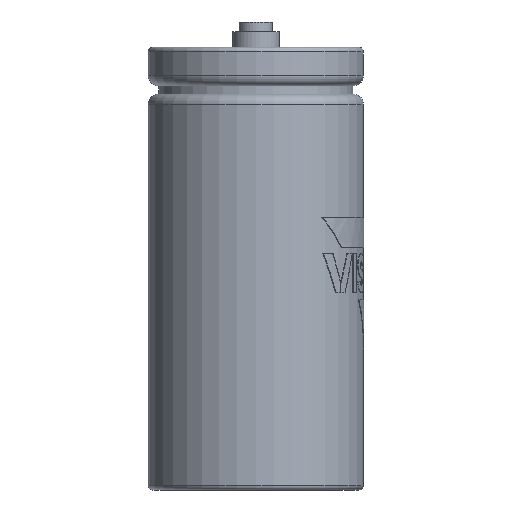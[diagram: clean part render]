
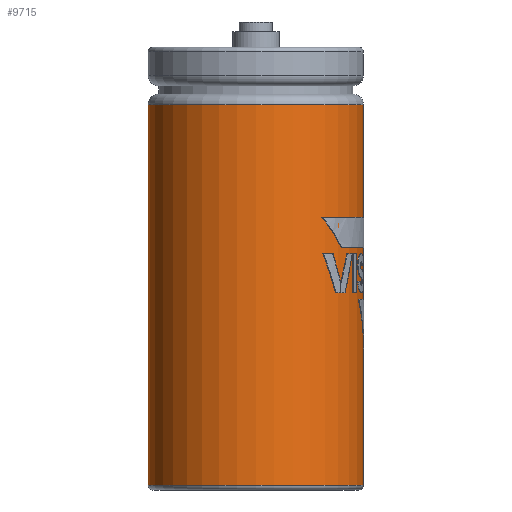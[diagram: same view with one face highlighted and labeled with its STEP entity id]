
A CAD part, left-side view. The second image highlights one B-rep face of the part: STEP entity #9715.
In plain terms, the highlighted cylindrical face has radius 25.5 mm (diameter 51 mm), a full revolution.
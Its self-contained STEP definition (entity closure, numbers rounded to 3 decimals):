
#9648 = TOROIDAL_SURFACE('',#9649,24.4,1.1);
#9649 = AXIS2_PLACEMENT_3D('',#9650,#9651,#9652);
#9650 = CARTESIAN_POINT('',(0.,0.,-102.6));
#9651 = DIRECTION('',(0.,0.,1.));
#9652 = DIRECTION('',(1.,0.,0.));
#9665 = VERTEX_POINT('',#9666);
#9666 = CARTESIAN_POINT('',(25.5,0.,-102.6));
#9688 = EDGE_CURVE('',#9665,#9665,#9689,.T.);
#9689 = SURFACE_CURVE('',#9690,(#9695,#9702),.PCURVE_S1.);
#9690 = CIRCLE('',#9691,25.5);
#9691 = AXIS2_PLACEMENT_3D('',#9692,#9693,#9694);
#9692 = CARTESIAN_POINT('',(0.,0.,-102.6));
#9693 = DIRECTION('',(0.,-0.,1.));
#9694 = DIRECTION('',(1.,0.,0.));
#9695 = PCURVE('',#9648,#9696);
#9696 = DEFINITIONAL_REPRESENTATION('',(#9697),#9701);
#9697 = LINE('',#9698,#9699);
#9698 = CARTESIAN_POINT('',(0.,6.283));
#9699 = VECTOR('',#9700,1.);
#9700 = DIRECTION('',(1.,0.));
#9701 = ( GEOMETRIC_REPRESENTATION_CONTEXT(2) 
PARAMETRIC_REPRESENTATION_CONTEXT() REPRESENTATION_CONTEXT('2D SPACE',''
  ) );
#9702 = PCURVE('',#9703,#9708);
#9703 = CYLINDRICAL_SURFACE('',#9704,25.5);
#9704 = AXIS2_PLACEMENT_3D('',#9705,#9706,#9707);
#9705 = CARTESIAN_POINT('',(0.,0.,-102.6));
#9706 = DIRECTION('',(0.,0.,1.));
#9707 = DIRECTION('',(1.,0.,0.));
#9708 = DEFINITIONAL_REPRESENTATION('',(#9709),#9713);
#9709 = LINE('',#9710,#9711);
#9710 = CARTESIAN_POINT('',(0.,0.));
#9711 = VECTOR('',#9712,1.);
#9712 = DIRECTION('',(1.,0.));
#9713 = ( GEOMETRIC_REPRESENTATION_CONTEXT(2) 
PARAMETRIC_REPRESENTATION_CONTEXT() REPRESENTATION_CONTEXT('2D SPACE',''
  ) );
#9715 = ADVANCED_FACE('',(#9716),#9703,.T.);
#9716 = FACE_BOUND('',#9717,.T.);
#9717 = EDGE_LOOP('',(#9718,#9719,#9742,#9769));
#9718 = ORIENTED_EDGE('',*,*,#9688,.T.);
#9719 = ORIENTED_EDGE('',*,*,#9720,.T.);
#9720 = EDGE_CURVE('',#9665,#9721,#9723,.T.);
#9721 = VERTEX_POINT('',#9722);
#9722 = CARTESIAN_POINT('',(25.5,0.,-12.5));
#9723 = SEAM_CURVE('',#9724,(#9728,#9735),.PCURVE_S1.);
#9724 = LINE('',#9725,#9726);
#9725 = CARTESIAN_POINT('',(25.5,0.,-102.6));
#9726 = VECTOR('',#9727,1.);
#9727 = DIRECTION('',(0.,0.,1.));
#9728 = PCURVE('',#9703,#9729);
#9729 = DEFINITIONAL_REPRESENTATION('',(#9730),#9734);
#9730 = LINE('',#9731,#9732);
#9731 = CARTESIAN_POINT('',(0.,0.));
#9732 = VECTOR('',#9733,1.);
#9733 = DIRECTION('',(0.,1.));
#9734 = ( GEOMETRIC_REPRESENTATION_CONTEXT(2) 
PARAMETRIC_REPRESENTATION_CONTEXT() REPRESENTATION_CONTEXT('2D SPACE',''
  ) );
#9735 = PCURVE('',#9703,#9736);
#9736 = DEFINITIONAL_REPRESENTATION('',(#9737),#9741);
#9737 = LINE('',#9738,#9739);
#9738 = CARTESIAN_POINT('',(6.283,0.));
#9739 = VECTOR('',#9740,1.);
#9740 = DIRECTION('',(0.,1.));
#9741 = ( GEOMETRIC_REPRESENTATION_CONTEXT(2) 
PARAMETRIC_REPRESENTATION_CONTEXT() REPRESENTATION_CONTEXT('2D SPACE',''
  ) );
#9742 = ORIENTED_EDGE('',*,*,#9743,.F.);
#9743 = EDGE_CURVE('',#9721,#9721,#9744,.T.);
#9744 = SURFACE_CURVE('',#9745,(#9750,#9757),.PCURVE_S1.);
#9745 = CIRCLE('',#9746,25.5);
#9746 = AXIS2_PLACEMENT_3D('',#9747,#9748,#9749);
#9747 = CARTESIAN_POINT('',(0.,0.,-12.5));
#9748 = DIRECTION('',(0.,-0.,1.));
#9749 = DIRECTION('',(1.,0.,0.));
#9750 = PCURVE('',#9703,#9751);
#9751 = DEFINITIONAL_REPRESENTATION('',(#9752),#9756);
#9752 = LINE('',#9753,#9754);
#9753 = CARTESIAN_POINT('',(0.,90.1));
#9754 = VECTOR('',#9755,1.);
#9755 = DIRECTION('',(1.,0.));
#9756 = ( GEOMETRIC_REPRESENTATION_CONTEXT(2) 
PARAMETRIC_REPRESENTATION_CONTEXT() REPRESENTATION_CONTEXT('2D SPACE',''
  ) );
#9757 = PCURVE('',#9758,#9763);
#9758 = TOROIDAL_SURFACE('',#9759,23.,2.5);
#9759 = AXIS2_PLACEMENT_3D('',#9760,#9761,#9762);
#9760 = CARTESIAN_POINT('',(0.,0.,-12.5));
#9761 = DIRECTION('',(0.,0.,1.));
#9762 = DIRECTION('',(1.,0.,0.));
#9763 = DEFINITIONAL_REPRESENTATION('',(#9764),#9768);
#9764 = LINE('',#9765,#9766);
#9765 = CARTESIAN_POINT('',(0.,0.));
#9766 = VECTOR('',#9767,1.);
#9767 = DIRECTION('',(1.,0.));
#9768 = ( GEOMETRIC_REPRESENTATION_CONTEXT(2) 
PARAMETRIC_REPRESENTATION_CONTEXT() REPRESENTATION_CONTEXT('2D SPACE',''
  ) );
#9769 = ORIENTED_EDGE('',*,*,#9720,.F.);
